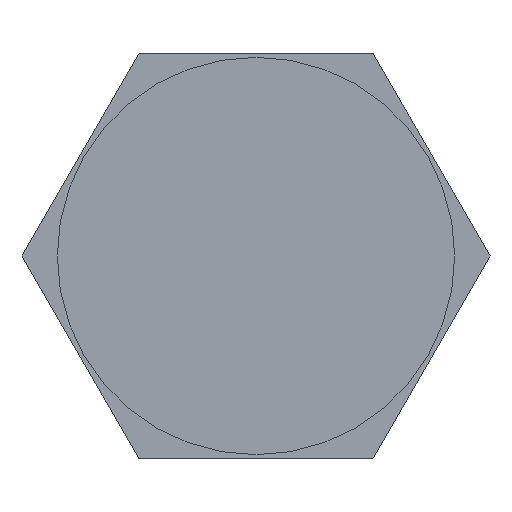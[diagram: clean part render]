
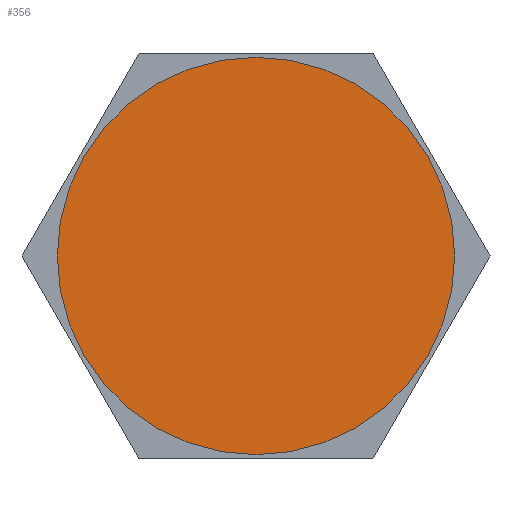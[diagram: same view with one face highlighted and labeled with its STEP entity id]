
A CAD part, front view. The second image highlights one B-rep face of the part: STEP entity #356.
In plain terms, the highlighted planar face has unit normal (0, -1, 0).
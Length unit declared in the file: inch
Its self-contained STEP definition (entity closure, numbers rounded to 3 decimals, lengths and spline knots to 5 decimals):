
#33 = CIRCLE ( 'NONE', #840, 0.5515 ) ;
#86 = CIRCLE ( 'NONE', #750, 0.5515 ) ;
#220 = FACE_OUTER_BOUND ( 'NONE', #330, .T. ) ;
#288 = ORIENTED_EDGE ( 'NONE', *, *, #798, .F. ) ;
#289 = ORIENTED_EDGE ( 'NONE', *, *, #780, .F. ) ;
#330 = EDGE_LOOP ( 'NONE', ( #288, #289 ) ) ;
#356 = ADVANCED_FACE ( 'NONE', ( #220 ), #569, .F. ) ;
#479 = DIRECTION ( 'NONE',  ( 0., 0., 1. ) ) ;
#485 = DIRECTION ( 'NONE',  ( 0., 1., 0. ) ) ;
#488 = CARTESIAN_POINT ( 'NONE',  ( 0., 0., 0. ) ) ;
#524 = DIRECTION ( 'NONE',  ( 0., 0., 1. ) ) ;
#525 = DIRECTION ( 'NONE',  ( 0., 1., 0. ) ) ;
#526 = CARTESIAN_POINT ( 'NONE',  ( 0., 0., 0. ) ) ;
#563 = CARTESIAN_POINT ( 'NONE',  ( 0., 0., 0. ) ) ;
#569 = PLANE ( 'NONE',  #756 ) ;
#631 = CARTESIAN_POINT ( 'NONE',  ( 0., 0., 0.5515 ) ) ;
#633 = CARTESIAN_POINT ( 'NONE',  ( 0., 0., -0.5515 ) ) ;
#707 = DIRECTION ( 'NONE',  ( 0., 0., 1. ) ) ;
#708 = DIRECTION ( 'NONE',  ( 0., 1., 0. ) ) ;
#712 = VERTEX_POINT ( 'NONE', #633 ) ;
#714 = VERTEX_POINT ( 'NONE', #631 ) ;
#750 = AXIS2_PLACEMENT_3D ( 'NONE', #526, #525, #524 ) ;
#756 = AXIS2_PLACEMENT_3D ( 'NONE', #563, #708, #707 ) ;
#780 = EDGE_CURVE ( 'NONE', #714, #712, #86, .T. ) ;
#798 = EDGE_CURVE ( 'NONE', #712, #714, #33, .T. ) ;
#840 = AXIS2_PLACEMENT_3D ( 'NONE', #488, #485, #479 ) ;
